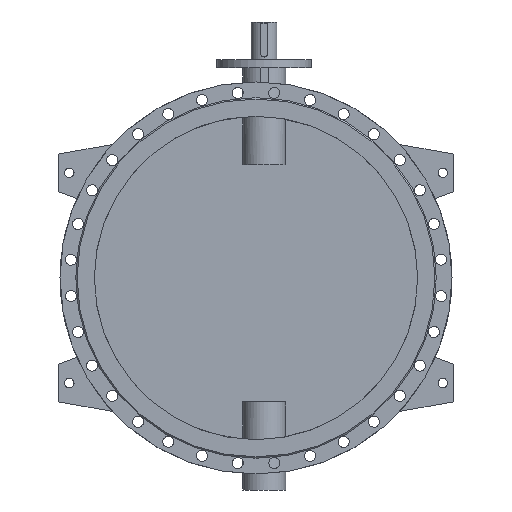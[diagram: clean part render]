
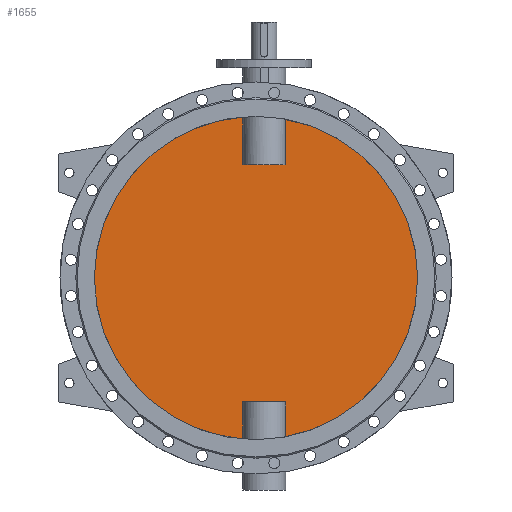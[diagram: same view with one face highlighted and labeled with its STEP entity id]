
A CAD part, front view. The second image highlights one B-rep face of the part: STEP entity #1655.
In plain terms, the highlighted planar face has unit normal (0, -1, 0).
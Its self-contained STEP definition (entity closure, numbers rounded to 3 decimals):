
#1655=ADVANCED_FACE('',(#3573),#3575,.F.);
#3573=FACE_BOUND('',#3574,.T.);
#3574=EDGE_LOOP('',(#4513,#4514,#4515,#4516,#4517,#4518,#4519,#4520));
#3575=PLANE('',#3576);
#3576=AXIS2_PLACEMENT_3D('',#3577,#3578,#3579);
#3577=CARTESIAN_POINT('',(0.,-5.,0.));
#3578=DIRECTION('',(0.,1.,0.));
#3579=DIRECTION('',(1.,0.,0.));
#4513=ORIENTED_EDGE('',*,*,#4983,.T.);
#4514=ORIENTED_EDGE('',*,*,#4999,.T.);
#4515=ORIENTED_EDGE('',*,*,#5000,.T.);
#4516=ORIENTED_EDGE('',*,*,#5001,.T.);
#4517=ORIENTED_EDGE('',*,*,#4985,.T.);
#4518=ORIENTED_EDGE('',*,*,#5002,.T.);
#4519=ORIENTED_EDGE('',*,*,#5003,.T.);
#4520=ORIENTED_EDGE('',*,*,#5004,.T.);
#4983=EDGE_CURVE('',#5759,#5760,#5761,.F.);
#4985=EDGE_CURVE('',#5764,#5762,#5765,.F.);
#4999=EDGE_CURVE('',#5760,#5791,#5792,.T.);
#5000=EDGE_CURVE('',#5791,#5793,#5794,.F.);
#5001=EDGE_CURVE('',#5793,#5764,#5795,.F.);
#5002=EDGE_CURVE('',#5762,#5796,#5797,.F.);
#5003=EDGE_CURVE('',#5796,#5798,#5799,.F.);
#5004=EDGE_CURVE('',#5798,#5759,#5800,.T.);
#5759=VERTEX_POINT('',#8382);
#5760=VERTEX_POINT('',#8383);
#5761=CIRCLE('',#8384,600.);
#5762=VERTEX_POINT('',#8388);
#5764=VERTEX_POINT('',#8482);
#5765=CIRCLE('',#8483,600.);
#5791=VERTEX_POINT('',#8861);
#5792=LINE('',#8862,#8863);
#5793=VERTEX_POINT('',#8865);
#5794=LINE('',#8866,#8867);
#5795=LINE('',#8869,#8870);
#5796=VERTEX_POINT('',#8872);
#5797=LINE('',#8873,#8874);
#5798=VERTEX_POINT('',#8876);
#5799=LINE('',#8877,#8878);
#5800=LINE('',#8880,#8881);
#8382=CARTESIAN_POINT('',(109.844,-5.,-589.86));
#8383=CARTESIAN_POINT('',(109.844,-5.,589.86));
#8384=AXIS2_PLACEMENT_3D('',#8385,#8386,#8387);
#8385=CARTESIAN_POINT('',(0.,-5.,0.));
#8386=DIRECTION('',(0.,1.,0.));
#8387=DIRECTION('',(0.183,0.,0.983));
#8388=CARTESIAN_POINT('',(-49.844,-5.,-597.926));
#8482=CARTESIAN_POINT('',(-49.844,-5.,597.926));
#8483=AXIS2_PLACEMENT_3D('',#8484,#8485,#8486);
#8484=CARTESIAN_POINT('',(0.,-5.,0.));
#8485=DIRECTION('',(0.,1.,0.));
#8486=DIRECTION('',(-0.083,0.,-0.997));
#8861=CARTESIAN_POINT('',(109.844,-5.,420.));
#8862=CARTESIAN_POINT('',(109.844,-5.,589.86));
#8863=VECTOR('',#8864,1.);
#8864=DIRECTION('',(0.,0.,-1.));
#8865=CARTESIAN_POINT('',(-49.844,-5.,420.));
#8866=CARTESIAN_POINT('',(-49.844,-5.,420.));
#8867=VECTOR('',#8868,1.);
#8868=DIRECTION('',(1.,0.,0.));
#8869=CARTESIAN_POINT('',(-49.844,-5.,597.926));
#8870=VECTOR('',#8871,1.);
#8871=DIRECTION('',(0.,0.,-1.));
#8872=CARTESIAN_POINT('',(-49.844,-5.,-460.));
#8873=CARTESIAN_POINT('',(-49.844,-5.,-460.));
#8874=VECTOR('',#8875,1.);
#8875=DIRECTION('',(0.,0.,-1.));
#8876=CARTESIAN_POINT('',(109.844,-5.,-460.));
#8877=CARTESIAN_POINT('',(109.844,-5.,-460.));
#8878=VECTOR('',#8879,1.);
#8879=DIRECTION('',(-1.,0.,0.));
#8880=CARTESIAN_POINT('',(109.844,-5.,-460.));
#8881=VECTOR('',#8882,1.);
#8882=DIRECTION('',(0.,0.,-1.));
